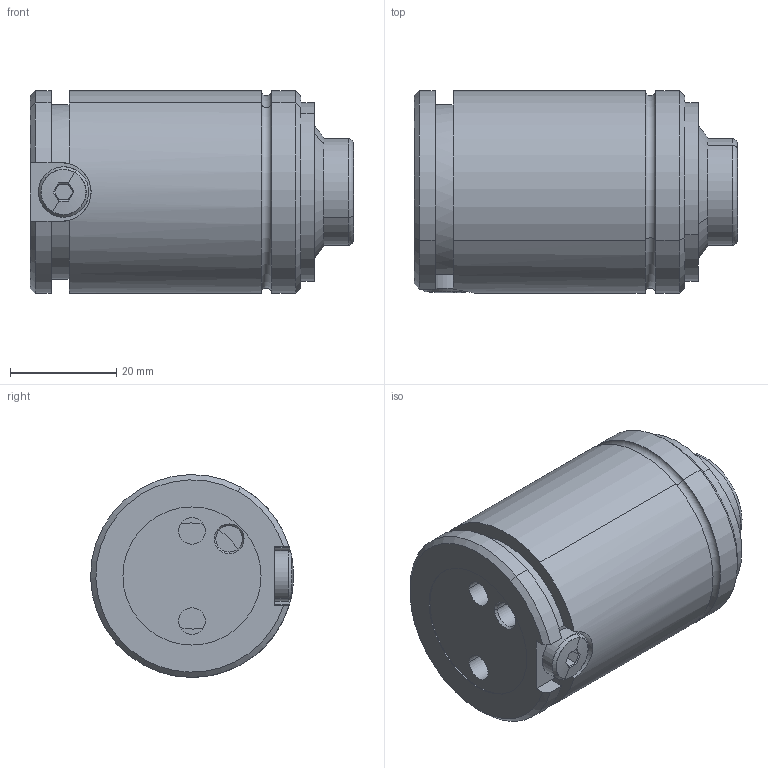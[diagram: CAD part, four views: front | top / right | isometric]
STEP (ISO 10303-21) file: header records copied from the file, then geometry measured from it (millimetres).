
FILE_DESCRIPTION(('CATIA V5 STEP Exchange'),'2;1');
FILE_NAME('W:\CATALOGO GENERAL 2015\CATIA\TPFS1000x25\TPFS 1000x6.stp','2017-11-21T12:24:18+00:00',('none'),('none'),'CATIA Version 5 Release 17 (IN-10)','CATIA V5 STEP AP203','none');
FILE_SCHEMA(('CONFIG_CONTROL_DESIGN'));
Length unit declared in the file: millimetre
Products named in the file (1): TPFS 1000x6
Assembly tree (4 placements, depth 2):
  TPFS 1000x6
    #56
    #1122
    #1312
    #1552
Bounding box: 61 x 38.19 x 38.19 mm (x, y, z)
Volume: 75043.1 mm3; surface area: 15424 mm2
Topology: 4 solids, 4 shells, 118 faces, 265 edges, 162 vertices
Faces by surface type: cylinder 31, cone 27, torus 26, plane 26, bspline 8
Entity records: 3389 total; most frequent: CARTESIAN_POINT 886, ORIENTED_EDGE 530, DIRECTION 397, EDGE_CURVE 265, AXIS2_PLACEMENT_3D 230, VERTEX_POINT 162, CIRCLE 143, EDGE_LOOP 127
